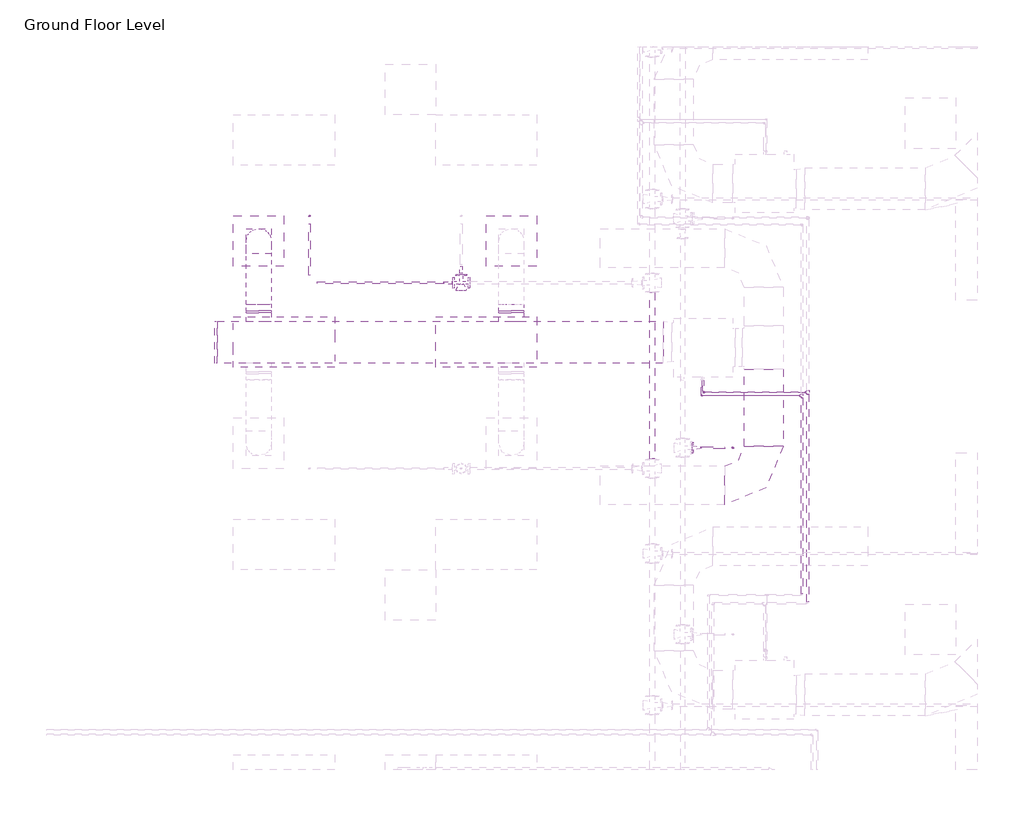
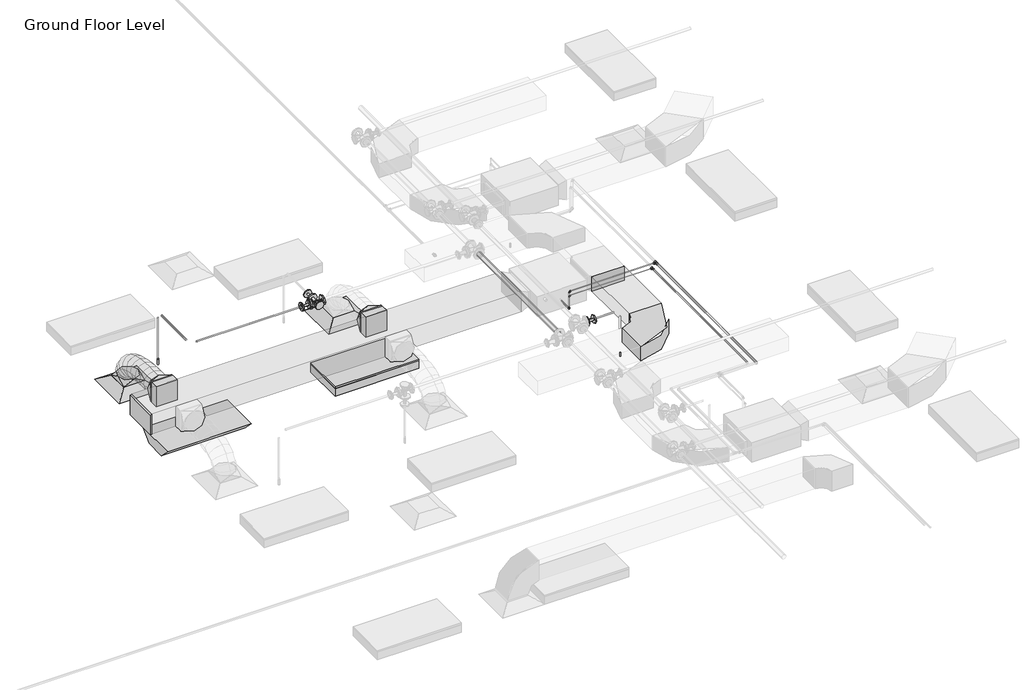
# One storey, part 61 of 74: 14 pipe segments, 12 pipe fittings, 8 duct fittings, 5 duct segments, 2 air terminals, 2 fire suppression terminals, 2 light fixtures.
"""IFC4 building model written with IfcOpenShell, lengths in millimetres."""

from ifc_helpers import new_model, si_unit, point, frame, frame_2d, origin, place, context, project, spatial, polyline, circle_curve, ellipse_curve, trimmed, segment, composite_curve, outline, extrude, transform, mapped, element, save
from ifc_brep_helpers import plane_surface, cylinder_surface, advanced_brep
from components import m_return_diffuser_600_x_600_face_300_x_300_connection_ff221211, m_rectangular_elbow_radius_1_w_0fa52825, m_rectangular_endcap_standard_72d4d00d, m_rectangular_takeoff_standard_2be5eba1, m_rectangular_transition_angle_45_degree_27e6000f, m_rectangular_to_round_transition_angle_45_degree_641efff0, m_sprinkler_dry_pendent_hosted_15_mm_dry_pendent_9bda8e11, m_sprinkler_pendent_15_mm_pendent_06fcbd8e, m_emergency_recessed_lighting_fixture_600x1200_277_5b10b25d, m_troffer_light_parabolic_rectangular1_0600x1200mm_4_lamp_86473d4a, m_elbow_generic_standard_a088f956, m_elbow_generic_standard_2a704253, m_reducer_flanged_cs_class_150_standard_ccf252ad, m_reducer_flanged_cs_class_150_standard_83138b42, m_tee_generic_standard_cdc1cff5, m_tee_generic_standard_bbfc025c, m_tee_round_base_flanged_cs_class_150_standard_7e5987a1, m_transition_generic_standard_e9aec4dd, m_transition_generic_standard_c2658a33

model = new_model("IFC4")

# Units and contexts
model_context = context("Model", 3, world=origin())
ifc_project = project(units=[si_unit("LENGTHUNIT", "METRE", prefix="MILLI")], contexts=[model_context])

# Site, building, storey
site = spatial("IfcSite", under=ifc_project)
building = spatial("IfcBuilding", under=site)
storey = spatial("IfcBuildingStorey", under=building, Name="Ground Floor Level", Elevation=900.0)

# Air terminals
placement = place(None, origin())
m_return_diffuser_600_x_600_face_300_x_300_connection_shape = m_return_diffuser_600_x_600_face_300_x_300_connection_ff221211(model_context)
element("IfcAirTerminal", 1, ObjectType="M_Supply Diffuser : 600 x 600 Face 300 x 300 Connection", at=placement, inside=storey, context=model_context, shape_type="MappedRepresentation", body=[
    mapped(m_return_diffuser_600_x_600_face_300_x_300_connection_shape, transform((962.7672395, 5335.2153534, 3650.0), x_axis=(1.0, 0.0, 0.0), y_axis=(0.0, 1.0, 0.0), z_axis=(0.0, 0.0, 1.0))),
])
element("IfcAirTerminal", 2, ObjectType="M_Supply Diffuser : 600 x 600 Face 300 x 300 Connection", at=placement, inside=storey, context=model_context, shape_type="MappedRepresentation", body=[
    mapped(m_return_diffuser_600_x_600_face_300_x_300_connection_shape, transform((3962.7672395, 5335.2153534, 3650.0), x_axis=(1.0, 0.0, 0.0), y_axis=(0.0, 1.0, 0.0), z_axis=(0.0, 0.0, 1.0))),
])

# Duct fittings
m_rectangular_elbow_radius_1_w_shape = m_rectangular_elbow_radius_1_w_0fa52825(model_context)
element("IfcDuctFitting", 3, ObjectType="M_Rectangular Elbow - Radius : 1 W", at=placement, inside=storey, context=model_context, shape_type="MappedRepresentation", body=[
    mapped(m_rectangular_elbow_radius_1_w_shape, transform((6958.8139492, 2435.5824167, 4075.2875), x_axis=(1.0, 0.0, 0.0), y_axis=(0.0, 1.0, 0.0), z_axis=(0.0, 0.0, 1.0))),
])
m_rectangular_endcap_standard_shape = m_rectangular_endcap_standard_72d4d00d(model_context)
element("IfcDuctFitting", 4, ObjectType="M_Rectangular Endcap : Standard", at=placement, inside=storey, context=model_context, shape_type="MappedRepresentation", body=[
    mapped(m_rectangular_endcap_standard_shape, transform((468.0139492, 4135.0199167, 4099.9875), x_axis=(-0.9999999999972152, 0.0, -2.3600398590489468e-06), y_axis=(0.0, -1.0000000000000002, 0.0), z_axis=(-2.3600398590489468e-06, 0.0, 0.9999999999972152))),
])
m_rectangular_takeoff_standard_shape = m_rectangular_takeoff_standard_2be5eba1(model_context)
element("IfcDuctFitting", 5, ObjectType="M_Rectangular Takeoff : Standard", at=placement, inside=storey, context=model_context, shape_type="MappedRepresentation", body=[
    mapped(m_rectangular_takeoff_standard_shape, transform((3962.7672395, 4385.0199167, 4099.9957478), x_axis=(0.0, 1.0, 0.0), y_axis=(1.0, 0.0, 0.0), z_axis=(0.0, 0.0, -1.0))),
])
element("IfcDuctFitting", 6, ObjectType="M_Rectangular Takeoff : Standard", at=placement, inside=storey, context=model_context, shape_type="MappedRepresentation", body=[
    mapped(m_rectangular_takeoff_standard_shape, transform((962.7672395, 4385.0199167, 4099.9886676), x_axis=(0.0, 1.0, 0.0), y_axis=(1.0, 0.0, 0.0), z_axis=(0.0, 0.0, -1.0))),
])
m_rectangular_transition_angle_45_degree_shape = m_rectangular_transition_angle_45_degree_27e6000f(model_context)
element("IfcDuctFitting", 7, ObjectType="M_Rectangular Transition - Angle : 45 Degree", at=placement, inside=storey, context=model_context, shape_type="MappedRepresentation", body=[
    mapped(m_rectangular_transition_angle_45_degree_shape, transform((6958.8139492, 3815.5824167, 4075.2875), x_axis=(0.0, -1.0, 0.0), y_axis=(1.0, 0.0, 0.0), z_axis=(0.0, 0.0, 1.0))),
])
m_rectangular_to_round_transition_angle_45_degree_shape = m_rectangular_to_round_transition_angle_45_degree_641efff0(model_context)
element("IfcDuctFitting", 8, ObjectType="M_Rectangular to Round Transition - Angle : 45 Degree", at=placement, inside=storey, context=model_context, shape_type="MappedRepresentation", body=[
    mapped(m_rectangular_to_round_transition_angle_45_degree_shape, transform((962.7672395, 5335.2153534, 3751.6), x_axis=(0.0, 0.0, 1.0), y_axis=(-1.0, 0.0, 0.0), z_axis=(0.0, -1.0, 0.0))),
])
element("IfcDuctFitting", 9, ObjectType="M_Rectangular to Round Transition - Angle : 45 Degree", at=placement, inside=storey, context=model_context, shape_type="MappedRepresentation", body=[
    mapped(m_rectangular_to_round_transition_angle_45_degree_shape, transform((962.7672395, 4507.8680897, 4099.9886676), x_axis=(0.0, 1.0, 0.0), y_axis=(-1.0, 0.0, 0.0), z_axis=(0.0, 0.0, 1.0))),
])
element("IfcDuctFitting", 10, ObjectType="M_Rectangular to Round Transition - Angle : 45 Degree", at=placement, inside=storey, context=model_context, shape_type="MappedRepresentation", body=[
    mapped(m_rectangular_to_round_transition_angle_45_degree_shape, transform((3962.7672395, 4507.8751699, 4099.9957478), x_axis=(0.0, 1.0, 0.0), y_axis=(-1.0, 0.0, 0.0), z_axis=(0.0, 0.0, 1.0))),
])

# Duct segments
element("IfcDuctSegment", 11, ObjectType="Flex - Round", at=placement, inside=storey, context=model_context, shape_type="AdvancedBrep", body=[
    advanced_brep(
    [(1112.7672395, 5335.2153534, 3826.6), (962.7672395, 5185.2153534, 3826.6), (812.7672395, 5335.2153534, 3826.6), (962.7672395, 5485.2153534, 3826.6), (1112.7672395, 5335.2153534, 3857.9381871), (962.7672395, 5185.2153534, 3832.2943835), (812.7672395, 5335.2153534, 3857.9381871), (962.7672395, 5485.2153534, 3883.5819907), (1112.7672395, 5318.1991066, 3906.2507795), (962.7672395, 5184.4618414, 3834.4337577), (812.7672395, 5318.1991066, 3906.2507795), (962.7672395, 5451.9363718, 3978.0678013), (1112.7672395, 5271.0143708, 3968.7107945), (962.7672395, 5166.8104112, 3857.7995469), (812.7672395, 5271.0143708, 3968.7107945), (962.7672395, 5375.2183303, 4079.622042), (1112.7672395, 5199.4571526, 4016.0681304), (962.7672395, 5130.5261535, 3881.8128585), (812.7672395, 5199.4571526, 4016.0681304), (962.7672395, 5268.3881516, 4150.3234022), (1112.7672395, 5109.3234587, 4050.4108726), (962.7672395, 5065.7660366, 3906.4877598), (812.7672395, 5109.3234587, 4050.4108726), (962.7672395, 5152.8808808, 4194.3339853), (1112.7672395, 5006.4092959, 4073.8271066), (962.7672395, 4979.8515391, 3926.0360311), (812.7672395, 5006.4092959, 4073.8271066), (962.7672395, 5032.9670528, 4221.618182), (1112.7672395, 4896.5106709, 4088.4049176), (962.7672395, 4881.3625214, 3939.1003829), (812.7672395, 4896.5106709, 4088.4049176), (962.7672395, 4911.6588205, 4237.7094524), (1112.7672395, 4785.4235904, 4096.2323912), (962.7672395, 4777.9204039, 3946.3891733), (812.7672395, 4785.4235904, 4096.2323912), (962.7672395, 4792.9267769, 4246.0756092), (1112.7672395, 4678.9440611, 4099.3976128), (962.7672395, 4676.2538265, 3949.4113245), (812.7672395, 4678.9440611, 4099.3976128), (962.7672395, 4681.6342958, 4249.383901), (1112.7672395, 4582.8680897, 4099.9886676), (962.7672395, 4583.7908652, 4249.9858292), (812.7672395, 4582.8680897, 4099.9886676), (962.7672395, 4581.9453142, 3949.991506)],
    [
        (0, 1, circle_curve(frame((962.7672395, 5335.2153534, 3826.6), z_axis=(0.0, 0.0, -1.0), x_axis=(1.0, 0.0, 0.0)), 150.0)),
        (1, 2, circle_curve(frame((962.7672395, 5335.2153534, 3826.6), z_axis=(0.0, 0.0, -1.0), x_axis=(1.0, 0.0, 0.0)), 150.0)),
        (2, 3, circle_curve(frame((962.7672395, 5335.2153534, 3826.6), z_axis=(0.0, 0.0, -1.0), x_axis=(1.0, 0.0, 0.0)), 150.0)),
        (3, 0, circle_curve(frame((962.7672395, 5335.2153534, 3826.6), z_axis=(0.0, 0.0, -1.0), x_axis=(1.0, 0.0, 0.0)), 150.0)),
        (0, 4),
        (4, 5, ellipse_curve(frame((962.7672395, 5335.2153534, 3857.9381871), z_axis=(0.0, 0.16851385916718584, -0.9856992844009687), x_axis=(0.0, -0.9856992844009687, -0.16851385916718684)), 152.176229, 150.0)),
        (5, 1),
        (5, 6, ellipse_curve(frame((962.7672395, 5335.2153534, 3857.9381871), z_axis=(0.0, 0.16851385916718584, -0.9856992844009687), x_axis=(0.0, -0.9856992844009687, -0.16851385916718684)), 152.176229, 150.0)),
        (6, 2),
        (6, 7, ellipse_curve(frame((962.7672395, 5335.2153534, 3857.9381871), z_axis=(0.0, 0.16851385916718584, -0.9856992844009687), x_axis=(0.0, -0.9856992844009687, -0.16851385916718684)), 152.176229, 150.0)),
        (7, 3),
        (7, 4, ellipse_curve(frame((962.7672395, 5335.2153534, 3857.9381871), z_axis=(0.0, 0.16851385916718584, -0.9856992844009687), x_axis=(0.0, -0.9856992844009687, -0.16851385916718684)), 152.176229, 150.0)),
        (4, 8),
        (8, 9, ellipse_curve(frame((962.7672395, 5318.1991066, 3906.2507795), z_axis=(0.0, 0.4731018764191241, -0.8810077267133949), x_axis=(0.0, -0.8810077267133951, -0.4731018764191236)), 151.8003318, 150.0)),
        (9, 5),
        (9, 10, ellipse_curve(frame((962.7672395, 5318.1991066, 3906.2507795), z_axis=(0.0, 0.4731018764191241, -0.8810077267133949), x_axis=(0.0, -0.8810077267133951, -0.4731018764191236)), 151.8003318, 150.0)),
        (10, 6),
        (10, 11, ellipse_curve(frame((962.7672395, 5318.1991066, 3906.2507795), z_axis=(0.0, 0.4731018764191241, -0.8810077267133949), x_axis=(0.0, -0.8810077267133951, -0.4731018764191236)), 151.8003318, 150.0)),
        (11, 7),
        (11, 8, ellipse_curve(frame((962.7672395, 5318.1991066, 3906.2507795), z_axis=(0.0, 0.4731018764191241, -0.8810077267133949), x_axis=(0.0, -0.8810077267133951, -0.4731018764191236)), 151.8003318, 150.0)),
        (8, 12),
        (12, 13, ellipse_curve(frame((962.7672395, 5271.0143708, 3968.7107945), z_axis=(0.0, 0.728800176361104, -0.6847264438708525), x_axis=(0.0, -0.6847264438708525, -0.7288001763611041)), 152.1833434, 150.0)),
        (13, 9),
        (13, 14, ellipse_curve(frame((962.7672395, 5271.0143708, 3968.7107945), z_axis=(0.0, 0.728800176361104, -0.6847264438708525), x_axis=(0.0, -0.6847264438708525, -0.7288001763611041)), 152.1833434, 150.0)),
        (14, 10),
        (14, 15, ellipse_curve(frame((962.7672395, 5271.0143708, 3968.7107945), z_axis=(0.0, 0.728800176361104, -0.6847264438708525), x_axis=(0.0, -0.6847264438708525, -0.7288001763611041)), 152.1833434, 150.0)),
        (15, 11),
        (15, 12, ellipse_curve(frame((962.7672395, 5271.0143708, 3968.7107945), z_axis=(0.0, 0.728800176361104, -0.6847264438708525), x_axis=(0.0, -0.6847264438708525, -0.7288001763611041)), 152.1833434, 150.0)),
        (12, 16),
        (16, 17, ellipse_curve(frame((962.7672395, 5199.4571526, 4016.0681304), z_axis=(0.0, 0.8895963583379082, -0.456747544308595), x_axis=(0.0, -0.4567475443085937, -0.8895963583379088)), 150.9170655, 150.0)),
        (17, 13),
        (17, 18, ellipse_curve(frame((962.7672395, 5199.4571526, 4016.0681304), z_axis=(0.0, 0.8895963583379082, -0.456747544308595), x_axis=(0.0, -0.4567475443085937, -0.8895963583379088)), 150.9170655, 150.0)),
        (18, 14),
        (18, 19, ellipse_curve(frame((962.7672395, 5199.4571526, 4016.0681304), z_axis=(0.0, 0.8895963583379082, -0.456747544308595), x_axis=(0.0, -0.4567475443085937, -0.8895963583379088)), 150.9170655, 150.0)),
        (19, 15),
        (19, 16, ellipse_curve(frame((962.7672395, 5199.4571526, 4016.0681304), z_axis=(0.0, 0.8895963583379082, -0.456747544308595), x_axis=(0.0, -0.4567475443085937, -0.8895963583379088)), 150.9170655, 150.0)),
        (16, 20),
        (20, 21, ellipse_curve(frame((962.7672395, 5109.3234587, 4050.4108726), z_axis=(0.0, 0.9571270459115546, -0.2896684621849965), x_axis=(0.0, -0.28966846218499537, -0.957127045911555)), 150.3699152, 150.0)),
        (21, 17),
        (21, 22, ellipse_curve(frame((962.7672395, 5109.3234587, 4050.4108726), z_axis=(0.0, 0.9571270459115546, -0.2896684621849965), x_axis=(0.0, -0.28966846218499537, -0.957127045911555)), 150.3699152, 150.0)),
        (22, 18),
        (22, 23, ellipse_curve(frame((962.7672395, 5109.3234587, 4050.4108726), z_axis=(0.0, 0.9571270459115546, -0.2896684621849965), x_axis=(0.0, -0.28966846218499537, -0.957127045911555)), 150.3699152, 150.0)),
        (23, 19),
        (23, 20, ellipse_curve(frame((962.7672395, 5109.3234587, 4050.4108726), z_axis=(0.0, 0.9571270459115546, -0.2896684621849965), x_axis=(0.0, -0.28966846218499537, -0.957127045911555)), 150.3699152, 150.0)),
        (20, 24),
        (24, 25, ellipse_curve(frame((962.7672395, 5006.4092959, 4073.8271066), z_axis=(0.0, 0.984235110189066, -0.17686505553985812), x_axis=(0.0, -0.17686505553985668, -0.9842351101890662)), 150.1583045, 150.0)),
        (25, 21),
        (25, 26, ellipse_curve(frame((962.7672395, 5006.4092959, 4073.8271066), z_axis=(0.0, 0.984235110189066, -0.17686505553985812), x_axis=(0.0, -0.17686505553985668, -0.9842351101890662)), 150.1583045, 150.0)),
        (26, 22),
        (26, 27, ellipse_curve(frame((962.7672395, 5006.4092959, 4073.8271066), z_axis=(0.0, 0.984235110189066, -0.17686505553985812), x_axis=(0.0, -0.17686505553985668, -0.9842351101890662)), 150.1583045, 150.0)),
        (27, 23),
        (27, 24, ellipse_curve(frame((962.7672395, 5006.4092959, 4073.8271066), z_axis=(0.0, 0.984235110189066, -0.17686505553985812), x_axis=(0.0, -0.17686505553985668, -0.9842351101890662)), 150.1583045, 150.0)),
        (24, 28),
        (28, 29, ellipse_curve(frame((962.7672395, 4896.5106709, 4088.4049176), z_axis=(0.0, 0.9948925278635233, -0.1009398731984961), x_axis=(0.0, -0.10093987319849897, -0.994892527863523)), 150.0710183, 150.0)),
        (29, 25),
        (29, 30, ellipse_curve(frame((962.7672395, 4896.5106709, 4088.4049176), z_axis=(0.0, 0.9948925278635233, -0.1009398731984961), x_axis=(0.0, -0.10093987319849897, -0.994892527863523)), 150.0710183, 150.0)),
        (30, 26),
        (30, 31, ellipse_curve(frame((962.7672395, 4896.5106709, 4088.4049176), z_axis=(0.0, 0.9948925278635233, -0.1009398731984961), x_axis=(0.0, -0.10093987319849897, -0.994892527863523)), 150.0710183, 150.0)),
        (31, 27),
        (31, 28, ellipse_curve(frame((962.7672395, 4896.5106709, 4088.4049176), z_axis=(0.0, 0.9948925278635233, -0.1009398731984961), x_axis=(0.0, -0.10093987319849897, -0.994892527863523)), 150.0710183, 150.0)),
        (28, 32),
        (32, 33, ellipse_curve(frame((962.7672395, 4785.4235904, 4096.2323912), z_axis=(0.0, 0.9987486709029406, -0.05001092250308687), x_axis=(0.0, -0.05001092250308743, -0.9987486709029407)), 150.0309561, 150.0)),
        (33, 29),
        (33, 34, ellipse_curve(frame((962.7672395, 4785.4235904, 4096.2323912), z_axis=(0.0, 0.9987486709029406, -0.05001092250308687), x_axis=(0.0, -0.05001092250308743, -0.9987486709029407)), 150.0309561, 150.0)),
        (34, 30),
        (34, 35, ellipse_curve(frame((962.7672395, 4785.4235904, 4096.2323912), z_axis=(0.0, 0.9987486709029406, -0.05001092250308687), x_axis=(0.0, -0.05001092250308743, -0.9987486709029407)), 150.0309561, 150.0)),
        (35, 31),
        (35, 32, ellipse_curve(frame((962.7672395, 4785.4235904, 4096.2323912), z_axis=(0.0, 0.9987486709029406, -0.05001092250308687), x_axis=(0.0, -0.05001092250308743, -0.9987486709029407)), 150.0309561, 150.0)),
        (32, 36),
        (36, 37, ellipse_curve(frame((962.7672395, 4678.9440611, 4099.3976128), z_axis=(0.0, 0.9998391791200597, -0.017933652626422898), x_axis=(0.0, -0.017933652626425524, -0.9998391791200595)), 150.0104131, 150.0)),
        (37, 33),
        (37, 38, ellipse_curve(frame((962.7672395, 4678.9440611, 4099.3976128), z_axis=(0.0, 0.9998391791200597, -0.017933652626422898), x_axis=(0.0, -0.017933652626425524, -0.9998391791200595)), 150.0104131, 150.0)),
        (38, 34),
        (38, 39, ellipse_curve(frame((962.7672395, 4678.9440611, 4099.3976128), z_axis=(0.0, 0.9998391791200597, -0.017933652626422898), x_axis=(0.0, -0.017933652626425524, -0.9998391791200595)), 150.0104131, 150.0)),
        (39, 35),
        (39, 36, ellipse_curve(frame((962.7672395, 4678.9440611, 4099.3976128), z_axis=(0.0, 0.9998391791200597, -0.017933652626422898), x_axis=(0.0, -0.017933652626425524, -0.9998391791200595)), 150.0104131, 150.0)),
        (40, 41, circle_curve(frame((962.7672395, 4582.8680897, 4099.9886676), z_axis=(0.0, -0.9999810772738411, 0.006151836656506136), x_axis=(1.0, 0.0, 0.0)), 150.0)),
        (41, 42, circle_curve(frame((962.7672395, 4582.8680897, 4099.9886676), z_axis=(0.0, -0.9999810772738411, 0.006151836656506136), x_axis=(1.0, 0.0, 0.0)), 150.0)),
        (42, 43, circle_curve(frame((962.7672395, 4582.8680897, 4099.9886676), z_axis=(0.0, -0.9999810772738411, 0.006151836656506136), x_axis=(1.0, 0.0, 0.0)), 150.0)),
        (43, 40, circle_curve(frame((962.7672395, 4582.8680897, 4099.9886676), z_axis=(0.0, -0.9999810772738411, 0.006151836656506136), x_axis=(1.0, 0.0, 0.0)), 150.0)),
        (36, 40),
        (43, 37),
        (42, 38),
        (41, 39),
    ],
    [
        plane_surface(frame((962.7672395, 5185.2153534, 3826.6), z_axis=(0.0, 0.0, -1.0), x_axis=(1.0, 0.0, 0.0))),
        cylinder_surface(frame((962.7672395, 5335.2153534, 3826.6), z_axis=(0.0, 0.0, -1.0), x_axis=(1.0, 0.0, 0.0)), 150.0),
        cylinder_surface(frame((962.7672395, 5335.2153534, 3857.9381871), z_axis=(0.0, 0.33220798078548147, -0.9432061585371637), x_axis=(1.0, 0.0, 0.0)), 150.0),
        cylinder_surface(frame((962.7672395, 5318.1991066, 3906.2507795), z_axis=(0.0, 0.6027739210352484, -0.7979120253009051), x_axis=(1.0, 0.0, 0.0)), 150.0),
        cylinder_surface(frame((962.7672395, 5271.0143708, 3968.7107945), z_axis=(0.0, 0.8339145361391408, -0.5518936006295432), x_axis=(1.0, 0.0, 0.0)), 150.0),
        cylinder_surface(frame((962.7672395, 5199.4571526, 4016.0681304), z_axis=(0.0, 0.9344667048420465, -0.35605052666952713), x_axis=(1.0, 0.0, 0.0)), 150.0),
        cylinder_surface(frame((962.7672395, 5109.3234587, 4050.4108726), z_axis=(0.0, 0.9750782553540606, -0.2218612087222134), x_axis=(1.0, 0.0, 0.0)), 150.0),
        cylinder_surface(frame((962.7672395, 5006.4092959, 4073.8271066), z_axis=(0.0, 0.9913167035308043, -0.13149598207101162), x_axis=(1.0, 0.0, 0.0)), 150.0),
        cylinder_surface(frame((962.7672395, 4896.5106709, 4088.4049176), z_axis=(0.0, 0.9975267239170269, -0.0702882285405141), x_axis=(1.0, 0.0, 0.0)), 150.0),
        cylinder_surface(frame((962.7672395, 4785.4235904, 4096.2323912), z_axis=(0.0, 0.9995584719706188, -0.029712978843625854), x_axis=(1.0, 0.0, 0.0)), 150.0),
        plane_surface(frame((962.7672395, 4581.9453142, 3949.991506), z_axis=(0.0, -0.9999810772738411, 0.006151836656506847), x_axis=(1.0, 0.0, 0.0))),
        cylinder_surface(frame((962.7672395, 4678.9440611, 4099.3976128), z_axis=(0.0, 0.9999810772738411, -0.006151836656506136), x_axis=(1.0, 0.0, 0.0)), 150.0),
    ],
    [
        (0, [[1, 2, 3, 4]]),
        (1, [[-1, 5, 6, 7]]),
        (1, [[-2, -7, 8, 9]]),
        (1, [[-3, -9, 10, 11]]),
        (1, [[-4, -11, 12, -5]]),
        (2, [[-6, 13, 14, 15]]),
        (2, [[-8, -15, 16, 17]]),
        (2, [[-10, -17, 18, 19]]),
        (2, [[-12, -19, 20, -13]]),
        (3, [[-14, 21, 22, 23]]),
        (3, [[-16, -23, 24, 25]]),
        (3, [[-18, -25, 26, 27]]),
        (3, [[-20, -27, 28, -21]]),
        (4, [[-22, 29, 30, 31]]),
        (4, [[-24, -31, 32, 33]]),
        (4, [[-26, -33, 34, 35]]),
        (4, [[-28, -35, 36, -29]]),
        (5, [[-30, 37, 38, 39]]),
        (5, [[-32, -39, 40, 41]]),
        (5, [[-34, -41, 42, 43]]),
        (5, [[-36, -43, 44, -37]]),
        (6, [[-38, 45, 46, 47]]),
        (6, [[-40, -47, 48, 49]]),
        (6, [[-42, -49, 50, 51]]),
        (6, [[-44, -51, 52, -45]]),
        (7, [[-46, 53, 54, 55]]),
        (7, [[-48, -55, 56, 57]]),
        (7, [[-50, -57, 58, 59]]),
        (7, [[-52, -59, 60, -53]]),
        (8, [[-54, 61, 62, 63]]),
        (8, [[-56, -63, 64, 65]]),
        (8, [[-58, -65, 66, 67]]),
        (8, [[-60, -67, 68, -61]]),
        (9, [[-62, 69, 70, 71]]),
        (9, [[-64, -71, 72, 73]]),
        (9, [[-66, -73, 74, 75]]),
        (9, [[-68, -75, 76, -69]]),
        (10, [[77, 78, 79, 80]]),
        (11, [[-70, 81, -80, 82]]),
        (11, [[-72, -82, -79, 83]]),
        (11, [[-74, -83, -78, 84]]),
        (11, [[-76, -84, -77, -81]]),
    ],
),
])
element("IfcDuctSegment", 12, ObjectType="Radius Elbows / Taps", at=placement, inside=storey, context=model_context, shape_type="SweptSolid", body=[
    extrude(outline(polyline([(0.0, -500.0), (0.0, 0.0), (5296.5207711, 0.0), (5296.5207711, -500.0), (0.0, -500.0)])), frame((5764.5350744, 3885.0199167, 3950.0), z_axis=(-2.360039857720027e-06, 0.0, 0.9999999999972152), x_axis=(-0.9999999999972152, 0.0, -2.360039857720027e-06)), (0.0, 0.0, 1.0), 300.0),
])
element("IfcDuctSegment", 13, ObjectType="Radius Elbows / Taps", at=placement, inside=storey, context=model_context, shape_type="SweptSolid", body=[
    extrude(outline(polyline([(6727.8139492, 3815.2202847), (7189.8139492, 3815.2202847), (7189.8139492, 2897.5824167), (6727.8139492, 2897.5824167), (6727.8139492, 3815.2202847)])), frame((0.0, 0.0, 3968.2875), z_axis=(0.0, 0.0, 1.0), x_axis=(1.0, 0.0, 0.0)), (0.0, 0.0, 1.0), 214.0),
])
element("IfcDuctSegment", 14, ObjectType="Radius Elbows / Taps", at=placement, inside=storey, context=model_context, shape_type="SweptSolid", body=[
    extrude(outline(polyline([(4112.7672395, 4486.6199167), (3812.7672395, 4486.6199167), (3812.7672395, 4507.8751699), (4112.7672395, 4507.8751699), (4112.7672395, 4486.6199167)])), frame((0.0, 0.0, 3949.9957478), z_axis=(0.0, 0.0, 1.0), x_axis=(1.0, 0.0, 0.0)), (0.0, 0.0, 1.0), 300.0),
])
element("IfcDuctSegment", 15, ObjectType="Radius Elbows / Taps", at=placement, inside=storey, context=model_context, shape_type="SweptSolid", body=[
    extrude(outline(polyline([(1112.7672395, 4486.6199167), (812.7672395, 4486.6199167), (812.7672395, 4507.8680897), (1112.7672395, 4507.8680897), (1112.7672395, 4486.6199167)])), frame((0.0, 0.0, 3949.9886676), z_axis=(0.0, 0.0, 1.0), x_axis=(1.0, 0.0, 0.0)), (0.0, 0.0, 1.0), 300.0),
])

# Fire suppression terminals
m_sprinkler_dry_pendent_hosted_15_mm_dry_pendent_shape = m_sprinkler_dry_pendent_hosted_15_mm_dry_pendent_9bda8e11(model_context)
element("IfcFireSuppressionTerminal", 16, ObjectType="M_Sprinkler - Dry - Pendent - Hosted : 15 mm Dry Pendent", at=placement, inside=storey, context=model_context, shape_type="MappedRepresentation", body=[
    mapped(m_sprinkler_dry_pendent_hosted_15_mm_dry_pendent_shape, transform((1565.5763283, 5635.2153534, 3650.0), x_axis=(1.0, 0.0, 0.0), y_axis=(0.0, -1.0, 0.0), z_axis=(0.0, 0.0, -1.0))),
])
m_sprinkler_pendent_15_mm_pendent_shape = m_sprinkler_pendent_15_mm_pendent_06fcbd8e(model_context)
element("IfcFireSuppressionTerminal", 17, ObjectType="M_Sprinkler - Pendent : 15 mm Pendent", at=placement, inside=storey, context=model_context, shape_type="MappedRepresentation", body=[
    mapped(m_sprinkler_pendent_15_mm_pendent_shape, transform((6592.5481019, 2881.5134565, 3650.0), x_axis=(1.0, 0.0, 0.0), y_axis=(0.0, 1.0, 0.0), z_axis=(0.0, 0.0, 1.0))),
])

# Light fixtures
m_emergency_recessed_lighting_fixture_600x1200_277_shape = m_emergency_recessed_lighting_fixture_600x1200_277_5b10b25d(model_context)
element("IfcLightFixture", 18, ObjectType="M_Emergency Recessed Lighting Fixture : 600x1200 - 277", at=placement, inside=storey, context=model_context, shape_type="MappedRepresentation", body=[
    mapped(m_emergency_recessed_lighting_fixture_600x1200_277_shape, transform((662.7672395, 4435.2153534, 3650.0), x_axis=(1.0, 0.0, 0.0), y_axis=(0.0, 1.0, 0.0), z_axis=(0.0, 0.0, 1.0))),
])
m_troffer_light_parabolic_rectangular1_0600x1200mm_4_lamp_shape = m_troffer_light_parabolic_rectangular1_0600x1200mm_4_lamp_86473d4a(model_context)
element("IfcLightFixture", 19, ObjectType="M_Troffer Light - Parabolic Rectangular1 : 0600x1200mm(4 Lamp) - 277V 2", at=placement, inside=storey, context=model_context, shape_type="MappedRepresentation", body=[
    mapped(m_troffer_light_parabolic_rectangular1_0600x1200mm_4_lamp_shape, transform((3681.4707411, 4194.6812855, 3650.0), x_axis=(1.0, 0.0, 0.0), y_axis=(0.0, 1.0, 0.0), z_axis=(0.0, 0.0, 1.0))),
])

# Pipe fittings
m_elbow_generic_standard_shape = m_elbow_generic_standard_a088f956(model_context)
element("IfcPipeFitting", 20, ObjectType="M_Elbow - Generic : Standard", at=placement, inside=storey, context=model_context, shape_type="MappedRepresentation", body=[
    mapped(m_elbow_generic_standard_shape, transform((6243.4139492, 3539.4875998, 4034.0875), x_axis=(0.0, -1.0, 0.0), y_axis=(0.0, 0.0, 1.0), z_axis=(-1.0, 0.0, 0.0))),
])
element("IfcPipeFitting", 21, ObjectType="M_Elbow - Generic : Standard", at=placement, inside=storey, context=model_context, shape_type="MappedRepresentation", body=[
    mapped(m_elbow_generic_standard_shape, transform((6243.4139492, 3539.4875998, 4300.0), x_axis=(0.0, 0.0, 1.0), y_axis=(1.0, 0.0, 0.0), z_axis=(0.0, 1.0, 0.0))),
])
m_elbow_generic_standard_2_shape = m_elbow_generic_standard_2a704253(model_context)
element("IfcPipeFitting", 22, ObjectType="M_Elbow - Generic : Standard", at=placement, inside=storey, context=model_context, shape_type="MappedRepresentation", body=[
    mapped(m_elbow_generic_standard_2_shape, transform((6218.4139492, 3499.6030827, 4084.8875), x_axis=(0.0, -1.0, 0.0), y_axis=(0.0, 0.0, 1.0), z_axis=(-1.0, 0.0, 0.0))),
])
element("IfcPipeFitting", 23, ObjectType="M_Elbow - Generic : Standard", at=placement, inside=storey, context=model_context, shape_type="MappedRepresentation", body=[
    mapped(m_elbow_generic_standard_2_shape, transform((6218.4139492, 3499.6030827, 4265.0), x_axis=(0.0, 0.0, 1.0), y_axis=(1.0, 0.0, 0.0), z_axis=(0.0, 1.0, 0.0))),
])
m_reducer_flanged_cs_class_150_standard_shape = m_reducer_flanged_cs_class_150_standard_ccf252ad(model_context)
element("IfcPipeFitting", 24, ObjectType="M_Reducer - Flanged - CS - Class 150 : Standard", at=placement, inside=storey, context=model_context, shape_type="MappedRepresentation", body=[
    mapped(m_reducer_flanged_cs_class_150_standard_shape, transform((3367.3772563, 4940.578485, 4360.0), x_axis=(0.0, 1.0, 0.0), y_axis=(-1.0, 0.0, 0.0), z_axis=(0.0, 0.0, 1.0))),
])
element("IfcPipeFitting", 25, ObjectType="M_Reducer - Flanged - CS - Class 150 : Standard", at=placement, inside=storey, context=model_context, shape_type="MappedRepresentation", body=[
    mapped(m_reducer_flanged_cs_class_150_standard_shape, transform((3266.6686625, 4839.8698912, 4360.0), x_axis=(-1.0, 0.0, 0.0), y_axis=(0.0, -1.0, 0.0), z_axis=(0.0, 0.0, 1.0))),
])
m_reducer_flanged_cs_class_150_standard_2_shape = m_reducer_flanged_cs_class_150_standard_83138b42(model_context)
element("IfcPipeFitting", 26, ObjectType="M_Reducer - Flanged - CS - Class 150 : Standard", at=placement, inside=storey, context=model_context, shape_type="MappedRepresentation", body=[
    mapped(m_reducer_flanged_cs_class_150_standard_2_shape, transform((6109.3164057, 2881.5134565, 4291.2754753), x_axis=(1.0, 0.0, 0.0), y_axis=(0.0, 0.0, -1.0), z_axis=(0.0, 1.0, 0.0))),
])
m_tee_generic_standard_shape = m_tee_generic_standard_cdc1cff5(model_context)
element("IfcPipeFitting", 27, ObjectType="M_Tee - Generic : Standard", at=placement, inside=storey, context=model_context, shape_type="MappedRepresentation", body=[
    mapped(m_tee_generic_standard_shape, transform((7412.2057053, 3499.6030827, 4265.0), x_axis=(0.0, 1.0, 0.0), y_axis=(1.0, 0.0, 0.0), z_axis=(0.0, 0.0, -1.0))),
])
m_tee_generic_standard_2_shape = m_tee_generic_standard_bbfc025c(model_context)
element("IfcPipeFitting", 28, ObjectType="M_Tee - Generic : Standard", at=placement, inside=storey, context=model_context, shape_type="MappedRepresentation", body=[
    mapped(m_tee_generic_standard_2_shape, transform((7485.0672395, 3539.4875998, 4300.0), x_axis=(0.0, 1.0, 0.0), y_axis=(1.0, 0.0, 0.0), z_axis=(0.0, 0.0, -1.0))),
])
m_tee_round_base_flanged_cs_class_150_standard_shape = m_tee_round_base_flanged_cs_class_150_standard_7e5987a1(model_context)
element("IfcPipeFitting", 29, ObjectType="M_Tee Round Base - Flanged - CS - Class 150 : Standard", at=placement, inside=storey, context=model_context, shape_type="MappedRepresentation", body=[
    mapped(m_tee_round_base_flanged_cs_class_150_standard_shape, transform((3367.3772563, 4839.8698912, 4360.0), x_axis=(1.0, 0.0, 0.0), y_axis=(0.0, -1.0, 0.0), z_axis=(0.0, 0.0, -1.0))),
])
m_transition_generic_standard_shape = m_transition_generic_standard_e9aec4dd(model_context)
element("IfcPipeFitting", 30, ObjectType="M_Transition - Generic : Standard", at=placement, inside=storey, context=model_context, shape_type="MappedRepresentation", body=[
    mapped(m_transition_generic_standard_shape, transform((7459.6672395, 3539.4875998, 4300.0), x_axis=(-1.0, 0.0, 0.0), y_axis=(0.0, -1.0, 0.0), z_axis=(0.0, 0.0, 1.0))),
])
m_transition_generic_standard_2_shape = m_transition_generic_standard_c2658a33(model_context)
element("IfcPipeFitting", 31, ObjectType="M_Transition - Generic : Standard", at=placement, inside=storey, context=model_context, shape_type="MappedRepresentation", body=[
    mapped(m_transition_generic_standard_2_shape, transform((7389.9807053, 3499.6030827, 4265.0), x_axis=(-1.0, 0.0, 0.0), y_axis=(0.0, -1.0, 0.0), z_axis=(0.0, 0.0, 1.0))),
])

# Pipe segments
element("IfcPipeSegment", 32, ObjectType="Copper", at=placement, inside=storey, context=model_context, shape_type="SweptSolid", body=[
    extrude(outline(composite_curve([segment(trimmed(circle_curve(frame_2d((3499.6030827, 4265.0)), 3.35), [point((3496.2530827, 4265.0))], [point((3499.6030827, 4268.35))], False, "CARTESIAN"), True, "CONTINUOUS"), segment(trimmed(circle_curve(frame_2d((3499.6030827, 4265.0)), 3.35), [point((3499.6030827, 4268.35))], [point((3502.9530827, 4265.0))], False, "CARTESIAN"), True, "CONTINUOUS"), segment(trimmed(circle_curve(frame_2d((3499.6030827, 4265.0)), 3.35), [point((3502.9530827, 4265.0))], [point((3499.6030827, 4261.65))], False, "CARTESIAN"), True, "CONTINUOUS"), segment(trimmed(circle_curve(frame_2d((3499.6030827, 4265.0)), 3.35), [point((3499.6030827, 4261.65))], [point((3496.2530827, 4265.0))], False, "CARTESIAN"), True, "CONTINUOUS")], self_intersect=False)), frame((6229.5514492, 0.0, 0.0), z_axis=(1.0, 0.0, 0.0), x_axis=(0.0, 1.0, 0.0)), (0.0, 0.0, 1.0), 1155.666756),
])
element("IfcPipeSegment", 33, ObjectType="Copper", at=placement, inside=storey, context=model_context, shape_type="SweptSolid", body=[
    extrude(outline(composite_curve([segment(trimmed(circle_curve(frame_2d((3539.4875998, 4300.0)), 6.5), [point((3532.9875998, 4300.0))], [point((3539.4875998, 4306.5))], False, "CARTESIAN"), True, "CONTINUOUS"), segment(trimmed(circle_curve(frame_2d((3539.4875998, 4300.0)), 6.5), [point((3539.4875998, 4306.5))], [point((3545.9875998, 4300.0))], False, "CARTESIAN"), True, "CONTINUOUS"), segment(trimmed(circle_curve(frame_2d((3539.4875998, 4300.0)), 6.5), [point((3545.9875998, 4300.0))], [point((3539.4875998, 4293.5))], False, "CARTESIAN"), True, "CONTINUOUS"), segment(trimmed(circle_curve(frame_2d((3539.4875998, 4300.0)), 6.5), [point((3539.4875998, 4293.5))], [point((3532.9875998, 4300.0))], False, "CARTESIAN"), True, "CONTINUOUS")], self_intersect=False)), frame((6257.7014492, 0.0, 0.0), z_axis=(1.0, 0.0, 0.0), x_axis=(0.0, 1.0, 0.0)), (0.0, 0.0, 1.0), 1195.6157902),
])
element("IfcPipeSegment", 34, ObjectType="Copper", at=placement, inside=storey, context=model_context, shape_type="SweptSolid", body=[
    extrude(outline(composite_curve([segment(trimmed(circle_curve(frame_2d((4265.0, 7412.2057053)), 8.1), [point((4265.0, 7404.1057053))], [point((4256.9, 7412.2057053))], False, "CARTESIAN"), True, "CONTINUOUS"), segment(trimmed(circle_curve(frame_2d((4265.0, 7412.2057053)), 8.1), [point((4256.9, 7412.2057053))], [point((4265.0, 7420.3057053))], False, "CARTESIAN"), True, "CONTINUOUS"), segment(trimmed(circle_curve(frame_2d((4265.0, 7412.2057053)), 8.1), [point((4265.0, 7420.3057053))], [point((4273.1, 7412.2057053))], False, "CARTESIAN"), True, "CONTINUOUS"), segment(trimmed(circle_curve(frame_2d((4265.0, 7412.2057053)), 8.1), [point((4273.1, 7412.2057053))], [point((4265.0, 7404.1057053))], False, "CARTESIAN"), True, "CONTINUOUS")], self_intersect=False)), frame((0.0, 1149.8935138, 0.0), z_axis=(0.0, 1.0, 0.0), x_axis=(0.0, 0.0, 1.0)), (0.0, 0.0, 1.0), 2327.4845689),
])
element("IfcPipeSegment", 35, ObjectType="Copper", at=placement, inside=storey, context=model_context, shape_type="SweptSolid", body=[
    extrude(outline(composite_curve([segment(trimmed(circle_curve(frame_2d((4300.0, 7485.0672395)), 11.5), [point((4300.0, 7496.5672395))], [point((4311.5, 7485.0672395))], False, "CARTESIAN"), True, "CONTINUOUS"), segment(trimmed(circle_curve(frame_2d((4300.0, 7485.0672395)), 11.5), [point((4311.5, 7485.0672395))], [point((4300.0, 7473.5672395))], False, "CARTESIAN"), True, "CONTINUOUS"), segment(trimmed(circle_curve(frame_2d((4300.0, 7485.0672395)), 11.5), [point((4300.0, 7473.5672395))], [point((4288.5, 7485.0672395))], False, "CARTESIAN"), True, "CONTINUOUS"), segment(trimmed(circle_curve(frame_2d((4300.0, 7485.0672395)), 11.5), [point((4288.5, 7485.0672395))], [point((4300.0, 7496.5672395))], False, "CARTESIAN"), True, "CONTINUOUS")], self_intersect=False)), frame((0.0, 1055.0598545, 0.0), z_axis=(0.0, 1.0, 0.0), x_axis=(0.0, 0.0, 1.0)), (0.0, 0.0, 1.0), 2459.0277453),
])
element("IfcPipeSegment", 36, ObjectType="Copper", at=placement, inside=storey, context=model_context, shape_type="SweptSolid", body=[
    extrude(outline(composite_curve([segment(trimmed(circle_curve(frame_2d((4034.0875, 6243.4139492)), 6.5), [point((4034.0875, 6236.9139492))], [point((4027.5875, 6243.4139492))], False, "CARTESIAN"), True, "CONTINUOUS"), segment(trimmed(circle_curve(frame_2d((4034.0875, 6243.4139492)), 6.5), [point((4027.5875, 6243.4139492))], [point((4034.0875, 6249.9139492))], False, "CARTESIAN"), True, "CONTINUOUS"), segment(trimmed(circle_curve(frame_2d((4034.0875, 6243.4139492)), 6.5), [point((4034.0875, 6249.9139492))], [point((4040.5875, 6243.4139492))], False, "CARTESIAN"), True, "CONTINUOUS"), segment(trimmed(circle_curve(frame_2d((4034.0875, 6243.4139492)), 6.5), [point((4040.5875, 6243.4139492))], [point((4034.0875, 6236.9139492))], False, "CARTESIAN"), True, "CONTINUOUS")], self_intersect=False)), frame((0.0, 3553.7750998, 0.0), z_axis=(0.0, 1.0, 0.0), x_axis=(0.0, 0.0, 1.0)), (0.0, 0.0, 1.0), 129.6448169),
])
element("IfcPipeSegment", 37, ObjectType="Copper", at=placement, inside=storey, context=model_context, shape_type="SweptSolid", body=[
    extrude(outline(composite_curve([segment(trimmed(circle_curve(frame_2d((4084.8875, 6218.4139492)), 3.35), [point((4084.8875, 6215.0639492))], [point((4081.5375, 6218.4139492))], False, "CARTESIAN"), True, "CONTINUOUS"), segment(trimmed(circle_curve(frame_2d((4084.8875, 6218.4139492)), 3.35), [point((4081.5375, 6218.4139492))], [point((4084.8875, 6221.7639492))], False, "CARTESIAN"), True, "CONTINUOUS"), segment(trimmed(circle_curve(frame_2d((4084.8875, 6218.4139492)), 3.35), [point((4084.8875, 6221.7639492))], [point((4088.2375, 6218.4139492))], False, "CARTESIAN"), True, "CONTINUOUS"), segment(trimmed(circle_curve(frame_2d((4084.8875, 6218.4139492)), 3.35), [point((4088.2375, 6218.4139492))], [point((4084.8875, 6215.0639492))], False, "CARTESIAN"), True, "CONTINUOUS")], self_intersect=False)), frame((0.0, 3510.7405827, 0.0), z_axis=(0.0, 1.0, 0.0), x_axis=(0.0, 0.0, 1.0)), (0.0, 0.0, 1.0), 172.679334),
])
element("IfcPipeSegment", 38, ObjectType="Copper", at=placement, inside=storey, context=model_context, shape_type="SweptSolid", body=[
    extrude(outline(composite_curve([segment(trimmed(circle_curve(frame_2d((6218.4139492, 3499.6030827)), 3.35), [point((6215.0639492, 3499.6030827))], [point((6218.4139492, 3502.9530827))], False, "CARTESIAN"), True, "CONTINUOUS"), segment(trimmed(circle_curve(frame_2d((6218.4139492, 3499.6030827)), 3.35), [point((6218.4139492, 3502.9530827))], [point((6221.7639492, 3499.6030827))], False, "CARTESIAN"), True, "CONTINUOUS"), segment(trimmed(circle_curve(frame_2d((6218.4139492, 3499.6030827)), 3.35), [point((6221.7639492, 3499.6030827))], [point((6218.4139492, 3496.2530827))], False, "CARTESIAN"), True, "CONTINUOUS"), segment(trimmed(circle_curve(frame_2d((6218.4139492, 3499.6030827)), 3.35), [point((6218.4139492, 3496.2530827))], [point((6215.0639492, 3499.6030827))], False, "CARTESIAN"), True, "CONTINUOUS")], self_intersect=False)), frame((0.0, 0.0, 4096.025), z_axis=(0.0, 0.0, 1.0), x_axis=(1.0, 0.0, 0.0)), (0.0, 0.0, 1.0), 157.8375),
])
element("IfcPipeSegment", 39, ObjectType="Copper", at=placement, inside=storey, context=model_context, shape_type="SweptSolid", body=[
    extrude(outline(composite_curve([segment(trimmed(circle_curve(frame_2d((6243.4139492, 3539.4875998)), 6.5), [point((6236.9139492, 3539.4875998))], [point((6243.4139492, 3545.9875998))], False, "CARTESIAN"), True, "CONTINUOUS"), segment(trimmed(circle_curve(frame_2d((6243.4139492, 3539.4875998)), 6.5), [point((6243.4139492, 3545.9875998))], [point((6249.9139492, 3539.4875998))], False, "CARTESIAN"), True, "CONTINUOUS"), segment(trimmed(circle_curve(frame_2d((6243.4139492, 3539.4875998)), 6.5), [point((6249.9139492, 3539.4875998))], [point((6243.4139492, 3532.9875998))], False, "CARTESIAN"), True, "CONTINUOUS"), segment(trimmed(circle_curve(frame_2d((6243.4139492, 3539.4875998)), 6.5), [point((6243.4139492, 3532.9875998))], [point((6236.9139492, 3539.4875998))], False, "CARTESIAN"), True, "CONTINUOUS")], self_intersect=False)), frame((0.0, 0.0, 4048.375), z_axis=(0.0, 0.0, 1.0), x_axis=(1.0, 0.0, 0.0)), (0.0, 0.0, 1.0), 237.3375),
])
element("IfcPipeSegment", 40, ObjectType="Steel flanged", at=placement, inside=storey, context=model_context, shape_type="SweptSolid", body=[
    extrude(outline(composite_curve([segment(trimmed(circle_curve(frame_2d((6592.5481019, 2881.5134565)), 10.668), [point((6581.8801019, 2881.5134565))], [point((6592.5481019, 2892.1814565))], False, "CARTESIAN"), True, "CONTINUOUS"), segment(trimmed(circle_curve(frame_2d((6592.5481019, 2881.5134565)), 10.668), [point((6592.5481019, 2892.1814565))], [point((6603.2161019, 2881.5134565))], False, "CARTESIAN"), True, "CONTINUOUS"), segment(trimmed(circle_curve(frame_2d((6592.5481019, 2881.5134565)), 10.668), [point((6603.2161019, 2881.5134565))], [point((6592.5481019, 2870.8454565))], False, "CARTESIAN"), True, "CONTINUOUS"), segment(trimmed(circle_curve(frame_2d((6592.5481019, 2881.5134565)), 10.668), [point((6592.5481019, 2870.8454565))], [point((6581.8801019, 2881.5134565))], False, "CARTESIAN"), True, "CONTINUOUS")], self_intersect=False)), frame((0.0, 0.0, 3650.0), z_axis=(0.0, 0.0, 1.0), x_axis=(1.0, 0.0, 0.0)), (0.0, 0.0, 1.0), 548.2668816),
])
element("IfcPipeSegment", 41, ObjectType="Steel flanged", at=placement, inside=storey, context=model_context, shape_type="SweptSolid", body=[
    extrude(outline(composite_curve([segment(trimmed(circle_curve(frame_2d((2881.5134565, 4291.2754753)), 10.668), [point((2892.1814565, 4291.2754753))], [point((2881.5134565, 4280.6074753))], False, "CARTESIAN"), True, "CONTINUOUS"), segment(trimmed(circle_curve(frame_2d((2881.5134565, 4291.2754753)), 10.668), [point((2881.5134565, 4280.6074753))], [point((2870.8454565, 4291.2754753))], False, "CARTESIAN"), True, "CONTINUOUS"), segment(trimmed(circle_curve(frame_2d((2881.5134565, 4291.2754753)), 10.668), [point((2870.8454565, 4291.2754753))], [point((2881.5134565, 4301.9434753))], False, "CARTESIAN"), True, "CONTINUOUS"), segment(trimmed(circle_curve(frame_2d((2881.5134565, 4291.2754753)), 10.668), [point((2881.5134565, 4301.9434753))], [point((2892.1814565, 4291.2754753))], False, "CARTESIAN"), True, "CONTINUOUS")], self_intersect=False)), frame((6223.3164057, 0.0, 0.0), z_axis=(1.0, 0.0, 0.0), x_axis=(0.0, 1.0, 0.0)), (0.0, 0.0, 1.0), 276.2231025),
])
element("IfcPipeSegment", 42, ObjectType="Steel flanged", at=placement, inside=storey, context=model_context, shape_type="SweptSolid", body=[
    extrude(outline(composite_curve([segment(trimmed(circle_curve(frame_2d((1565.5763283, 5635.2153534)), 10.668), [point((1554.9083283, 5635.2153534))], [point((1565.5763283, 5645.8833534))], False, "CARTESIAN"), True, "CONTINUOUS"), segment(trimmed(circle_curve(frame_2d((1565.5763283, 5635.2153534)), 10.668), [point((1565.5763283, 5645.8833534))], [point((1576.2443283, 5635.2153534))], False, "CARTESIAN"), True, "CONTINUOUS"), segment(trimmed(circle_curve(frame_2d((1565.5763283, 5635.2153534)), 10.668), [point((1576.2443283, 5635.2153534))], [point((1565.5763283, 5624.5473534))], False, "CARTESIAN"), True, "CONTINUOUS"), segment(trimmed(circle_curve(frame_2d((1565.5763283, 5635.2153534)), 10.668), [point((1565.5763283, 5624.5473534))], [point((1554.9083283, 5635.2153534))], False, "CARTESIAN"), True, "CONTINUOUS")], self_intersect=False)), frame((0.0, 0.0, 3650.0), z_axis=(0.0, 0.0, 1.0), x_axis=(1.0, 0.0, 0.0)), (0.0, 0.0, 1.0), 616.9914063),
])
element("IfcPipeSegment", 43, ObjectType="Steel flanged", at=placement, inside=storey, context=model_context, shape_type="SweptSolid", body=[
    extrude(outline(composite_curve([segment(trimmed(circle_curve(frame_2d((4360.0, 1565.5763283)), 10.668), [point((4360.0, 1554.9083283))], [point((4349.332, 1565.5763283))], False, "CARTESIAN"), True, "CONTINUOUS"), segment(trimmed(circle_curve(frame_2d((4360.0, 1565.5763283)), 10.668), [point((4349.332, 1565.5763283))], [point((4360.0, 1576.2443283))], False, "CARTESIAN"), True, "CONTINUOUS"), segment(trimmed(circle_curve(frame_2d((4360.0, 1565.5763283)), 10.668), [point((4360.0, 1576.2443283))], [point((4370.668, 1565.5763283))], False, "CARTESIAN"), True, "CONTINUOUS"), segment(trimmed(circle_curve(frame_2d((4360.0, 1565.5763283)), 10.668), [point((4370.668, 1565.5763283))], [point((4360.0, 1554.9083283))], False, "CARTESIAN"), True, "CONTINUOUS")], self_intersect=False)), frame((0.0, 4932.878485, 0.0), z_axis=(0.0, 1.0, 0.0), x_axis=(0.0, 0.0, 1.0)), (0.0, 0.0, 1.0), 609.3282747),
])
element("IfcPipeSegment", 44, ObjectType="Steel flanged", at=placement, inside=storey, context=model_context, shape_type="SweptSolid", body=[
    extrude(outline(composite_curve([segment(trimmed(circle_curve(frame_2d((4839.8698912, 4360.0)), 10.668), [point((4850.5378912, 4360.0))], [point((4839.8698912, 4349.332))], False, "CARTESIAN"), True, "CONTINUOUS"), segment(trimmed(circle_curve(frame_2d((4839.8698912, 4360.0)), 10.668), [point((4839.8698912, 4349.332))], [point((4829.2018912, 4360.0))], False, "CARTESIAN"), True, "CONTINUOUS"), segment(trimmed(circle_curve(frame_2d((4839.8698912, 4360.0)), 10.668), [point((4829.2018912, 4360.0))], [point((4839.8698912, 4370.668))], False, "CARTESIAN"), True, "CONTINUOUS"), segment(trimmed(circle_curve(frame_2d((4839.8698912, 4360.0)), 10.668), [point((4839.8698912, 4370.668))], [point((4850.5378912, 4360.0))], False, "CARTESIAN"), True, "CONTINUOUS")], self_intersect=False)), frame((1658.584922, 0.0, 0.0), z_axis=(1.0, 0.0, 0.0), x_axis=(0.0, 1.0, 0.0)), (0.0, 0.0, 1.0), 1494.0837405),
])
element("IfcPipeSegment", 45, ObjectType="Steel flanged", at=placement, inside=storey, context=model_context, shape_type="SweptSolid", body=[
    extrude(outline(composite_curve([segment(trimmed(circle_curve(frame_2d((4360.0, 5635.869498)), 30.1625), [point((4360.0, 5605.706998))], [point((4329.8375, 5635.869498))], False, "CARTESIAN"), True, "CONTINUOUS"), segment(trimmed(circle_curve(frame_2d((4360.0, 5635.869498)), 30.1625), [point((4329.8375, 5635.869498))], [point((4360.0, 5666.031998))], False, "CARTESIAN"), True, "CONTINUOUS"), segment(trimmed(circle_curve(frame_2d((4360.0, 5635.869498)), 30.1625), [point((4360.0, 5666.031998))], [point((4390.1625, 5635.869498))], False, "CARTESIAN"), True, "CONTINUOUS"), segment(trimmed(circle_curve(frame_2d((4360.0, 5635.869498)), 30.1625), [point((4390.1625, 5635.869498))], [point((4360.0, 5605.706998))], False, "CARTESIAN"), True, "CONTINUOUS")], self_intersect=False)), frame((0.0, 2749.2153534, 0.0), z_axis=(0.0, 1.0, 0.0), x_axis=(0.0, 0.0, 1.0)), (0.0, 0.0, 1.0), 1976.6545378),
])

save(model, "model.ifc")
